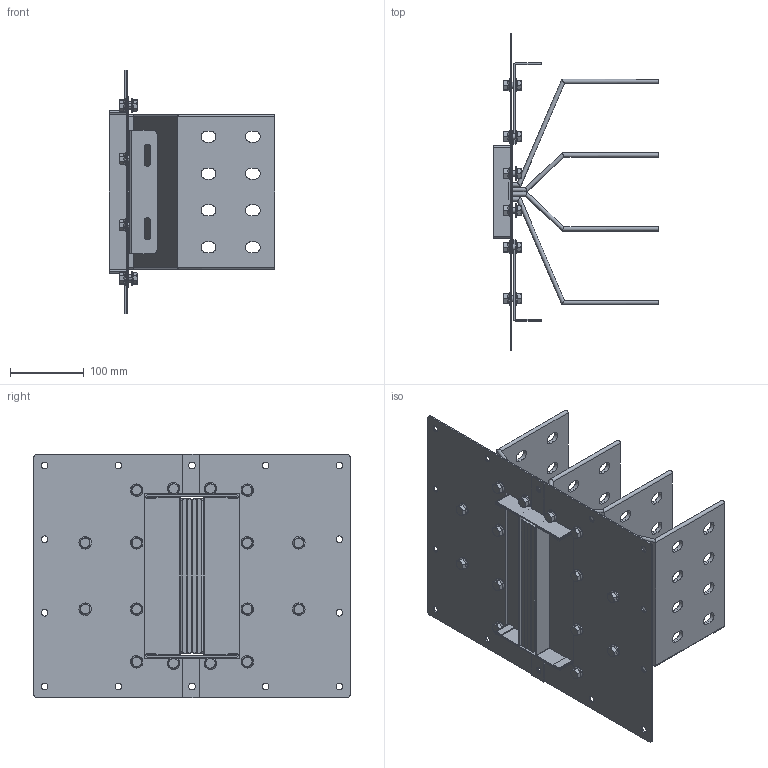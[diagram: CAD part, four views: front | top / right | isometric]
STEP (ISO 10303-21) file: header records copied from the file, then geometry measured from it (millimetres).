
FILE_DESCRIPTION(('CATIA V5 STEP','CAx-IF Rec.Pracs.--- Model Styling and Organization---1.5--- 2016-08-15','CAx-IF Rec.Pracs.---Supplemental Geometry---1.0---2011-11-01','CAx-IF Rec.Pracs.--- Composite Materials ---1.1---2010-07-15'),'2;1');
FILE_NAME('K:\COSCN 2011\32372311_RiduzioneSezioniBarre\03_Studio\__Modelli semplificati\XCP_UB semplificati per studi\XCP-HP_UB_4C_Pe_STD_Assieme\Cu\XCP-HP_UB_4C_Pe_S_Assieme - 2500A Cu\XCP-HP_UB_4C_Pe_S_Assieme - 2500A Cu.stp','2025-05-12T11:59:17+00:00',('Utente Bticino'),('Bticino S.p.A.'),'CATIA Version 5-6 Release 2020 SP5','CATIA V5 STEP AP214 v2','none');
FILE_SCHEMA(('AUTOMOTIVE_DESIGN { 1 0 10303 214 1 1 1 1 }'));
Length unit declared in the file: millimetre
Products named in the file (6): XCP-HP_UB_4C_Pe_S_Assieme - 2500A Cu; XCP-HP_UB_4C_Pe_S_PaccoBarre_2500A Cu; XCP-HP_UB_4C_Pe_S_Lamiere_2500A Cu; Ass Vite+dado M8; Steel hex flanged SCREW M12x16; Steel hex flanged NUT M8
Assembly tree (20 placements, depth 3):
  XCP-HP_UB_4C_Pe_S_Assieme - 2500A Cu
    XCP-HP_UB_4C_Pe_S_PaccoBarre_2500A Cu
    XCP-HP_UB_4C_Pe_S_Lamiere_2500A Cu
    Ass Vite+dado M8  x16
      Steel hex flanged SCREW M12x16
      Steel hex flanged NUT M8
Bounding box: 225 x 430 x 330 mm (x, y, z)
Volume: 1749089.5 mm3; surface area: 967110.8 mm2
Topology: 44 solids, 44 shells, 1204 faces, 2988 edges, 1904 vertices
Faces by surface type: plane 512, cylinder 404, cone 128, bspline 128, torus 32
Entity records: 16736 total; most frequent: CARTESIAN_POINT 3782, ORIENTED_EDGE 2796, DIRECTION 2180, EDGE_CURVE 1398, VERTEX_POINT 914, AXIS2_PLACEMENT_3D 908, VECTOR 848, LINE 848
